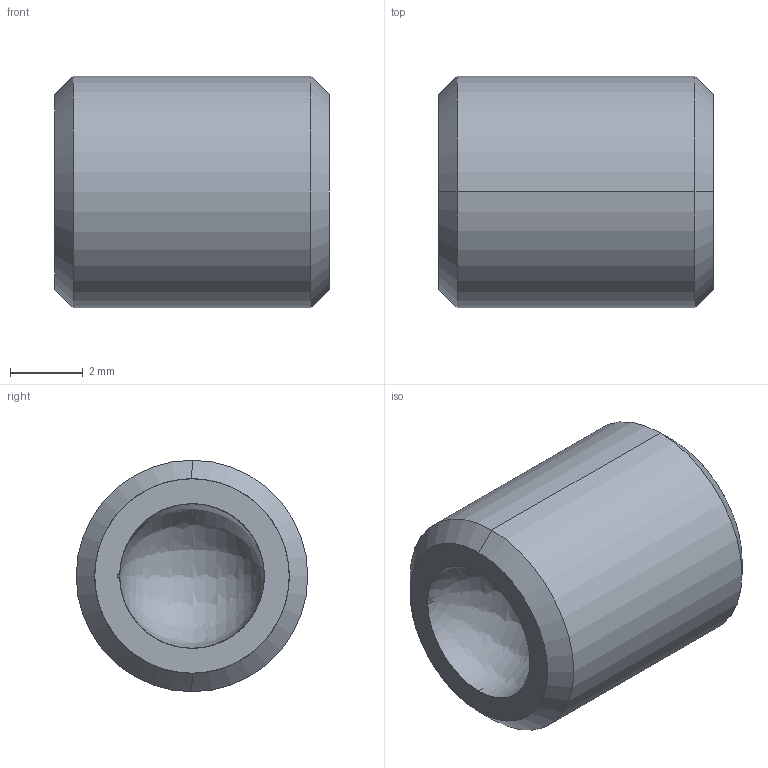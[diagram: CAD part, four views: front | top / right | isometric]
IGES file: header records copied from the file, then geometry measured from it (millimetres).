
Start section: SolidWorks IGES file using analytic representation for surfaces
Global section: file name: C:\Users\workpc\Desktop\KMA Solidworks\TS250-80 Series\TS250-80 High Vacuum\TS250-80 High Vacuum 3D Models\TS250-80-375-HV.IGS; native system: SolidWorks 2013; preprocessor: SolidWorks 2013; author: workpc; date: 130509.085343; units: inch
Bounding box: 7.54 x 6.35 x 6.35 mm (x, y, z)
Surface area: 294.4 mm2 (no closed solid volume)
Topology: 0 solids, 0 shells, 29 faces, 267 edges, 264 vertices
Faces by surface type: revolution 18, bspline 11
